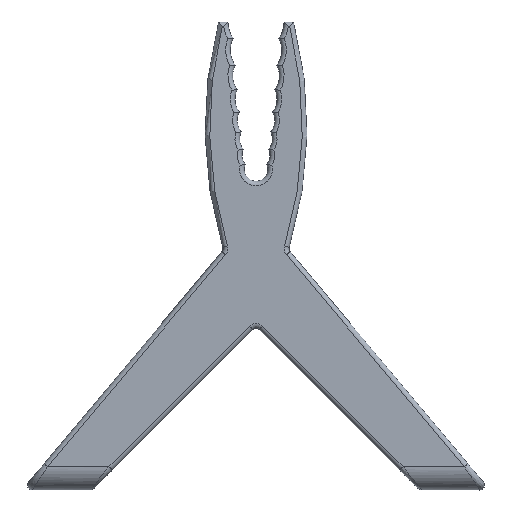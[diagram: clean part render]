
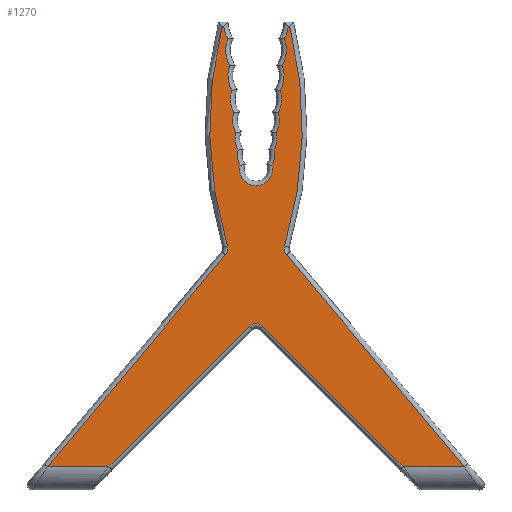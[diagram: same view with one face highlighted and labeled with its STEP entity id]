
A CAD part, top view. The second image highlights one B-rep face of the part: STEP entity #1270.
In plain terms, the highlighted planar face has unit normal (0, 0, 1).
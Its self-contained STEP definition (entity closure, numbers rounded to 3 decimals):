
#15=PLANE('',#1461);
#67=CIRCLE('',#1371,87.436);
#69=CIRCLE('',#1374,2.);
#80=CIRCLE('',#1393,7.);
#82=CIRCLE('',#1396,6.5);
#84=CIRCLE('',#1399,6.);
#86=CIRCLE('',#1402,5.5);
#88=CIRCLE('',#1405,5.);
#90=CIRCLE('',#1408,4.5);
#92=CIRCLE('',#1411,4.);
#94=CIRCLE('',#1414,3.5);
#96=CIRCLE('',#1417,4.);
#98=CIRCLE('',#1420,4.5);
#100=CIRCLE('',#1423,5.);
#102=CIRCLE('',#1426,5.5);
#104=CIRCLE('',#1429,6.);
#106=CIRCLE('',#1432,6.5);
#108=CIRCLE('',#1435,7.);
#109=CIRCLE('',#1438,87.436);
#114=CIRCLE('',#1444,2.);
#123=CIRCLE('',#1462,2.);
#224=FACE_OUTER_BOUND('',#310,.T.);
#310=EDGE_LOOP('',(#991,#992,#993,#994,#995,#996,#997,#998,#999,#1000,#1001,
#1002,#1003,#1004,#1005,#1006,#1007,#1008,#1009,#1010,#1011,#1012,#1013,
#1014,#1015,#1016,#1017,#1018));
#387=LINE('',#2317,#439);
#392=LINE('',#2413,#444);
#394=LINE('',#2717,#446);
#396=LINE('',#2749,#448);
#399=LINE('',#2842,#451);
#401=LINE('',#2848,#453);
#402=LINE('',#2850,#454);
#403=LINE('',#2853,#455);
#439=VECTOR('',#1631,10.);
#444=VECTOR('',#1662,10.);
#446=VECTOR('',#1756,10.);
#448=VECTOR('',#1778,10.);
#451=VECTOR('',#1807,10.);
#453=VECTOR('',#1813,10.);
#454=VECTOR('',#1814,10.);
#455=VECTOR('',#1817,10.);
#525=VERTEX_POINT('',#2289);
#526=VERTEX_POINT('',#2291);
#528=VERTEX_POINT('',#2309);
#530=VERTEX_POINT('',#2315);
#538=VERTEX_POINT('',#2412);
#540=VERTEX_POINT('',#2431);
#542=VERTEX_POINT('',#2450);
#544=VERTEX_POINT('',#2469);
#546=VERTEX_POINT('',#2488);
#548=VERTEX_POINT('',#2507);
#550=VERTEX_POINT('',#2526);
#552=VERTEX_POINT('',#2545);
#554=VERTEX_POINT('',#2564);
#556=VERTEX_POINT('',#2583);
#558=VERTEX_POINT('',#2602);
#560=VERTEX_POINT('',#2621);
#562=VERTEX_POINT('',#2640);
#564=VERTEX_POINT('',#2659);
#566=VERTEX_POINT('',#2678);
#568=VERTEX_POINT('',#2697);
#570=VERTEX_POINT('',#2716);
#571=VERTEX_POINT('',#2733);
#573=VERTEX_POINT('',#2739);
#575=VERTEX_POINT('',#2745);
#583=VERTEX_POINT('',#2841);
#585=VERTEX_POINT('',#2847);
#586=VERTEX_POINT('',#2849);
#587=VERTEX_POINT('',#2851);
#653=EDGE_CURVE('',#525,#526,#67,.T.);
#656=EDGE_CURVE('',#528,#525,#69,.T.);
#659=EDGE_CURVE('',#530,#528,#387,.T.);
#673=EDGE_CURVE('',#526,#538,#392,.T.);
#676=EDGE_CURVE('',#538,#540,#80,.T.);
#679=EDGE_CURVE('',#540,#542,#82,.T.);
#682=EDGE_CURVE('',#542,#544,#84,.T.);
#685=EDGE_CURVE('',#544,#546,#86,.T.);
#688=EDGE_CURVE('',#546,#548,#88,.T.);
#691=EDGE_CURVE('',#548,#550,#90,.T.);
#694=EDGE_CURVE('',#550,#552,#92,.T.);
#697=EDGE_CURVE('',#552,#554,#94,.T.);
#700=EDGE_CURVE('',#554,#556,#96,.T.);
#703=EDGE_CURVE('',#556,#558,#98,.T.);
#706=EDGE_CURVE('',#558,#560,#100,.T.);
#709=EDGE_CURVE('',#560,#562,#102,.T.);
#712=EDGE_CURVE('',#562,#564,#104,.T.);
#715=EDGE_CURVE('',#564,#566,#106,.T.);
#718=EDGE_CURVE('',#566,#568,#108,.T.);
#721=EDGE_CURVE('',#568,#570,#394,.T.);
#723=EDGE_CURVE('',#570,#571,#109,.T.);
#728=EDGE_CURVE('',#571,#573,#114,.T.);
#731=EDGE_CURVE('',#573,#575,#396,.T.);
#743=EDGE_CURVE('',#575,#583,#399,.T.);
#746=EDGE_CURVE('',#585,#530,#401,.T.);
#747=EDGE_CURVE('',#586,#585,#402,.T.);
#748=EDGE_CURVE('',#587,#586,#123,.T.);
#749=EDGE_CURVE('',#583,#587,#403,.T.);
#991=ORIENTED_EDGE('',*,*,#731,.F.);
#992=ORIENTED_EDGE('',*,*,#728,.F.);
#993=ORIENTED_EDGE('',*,*,#723,.F.);
#994=ORIENTED_EDGE('',*,*,#721,.F.);
#995=ORIENTED_EDGE('',*,*,#718,.F.);
#996=ORIENTED_EDGE('',*,*,#715,.F.);
#997=ORIENTED_EDGE('',*,*,#712,.F.);
#998=ORIENTED_EDGE('',*,*,#709,.F.);
#999=ORIENTED_EDGE('',*,*,#706,.F.);
#1000=ORIENTED_EDGE('',*,*,#703,.F.);
#1001=ORIENTED_EDGE('',*,*,#700,.F.);
#1002=ORIENTED_EDGE('',*,*,#697,.F.);
#1003=ORIENTED_EDGE('',*,*,#694,.F.);
#1004=ORIENTED_EDGE('',*,*,#691,.F.);
#1005=ORIENTED_EDGE('',*,*,#688,.F.);
#1006=ORIENTED_EDGE('',*,*,#685,.F.);
#1007=ORIENTED_EDGE('',*,*,#682,.F.);
#1008=ORIENTED_EDGE('',*,*,#679,.F.);
#1009=ORIENTED_EDGE('',*,*,#676,.F.);
#1010=ORIENTED_EDGE('',*,*,#673,.F.);
#1011=ORIENTED_EDGE('',*,*,#653,.F.);
#1012=ORIENTED_EDGE('',*,*,#656,.F.);
#1013=ORIENTED_EDGE('',*,*,#659,.F.);
#1014=ORIENTED_EDGE('',*,*,#746,.F.);
#1015=ORIENTED_EDGE('',*,*,#747,.F.);
#1016=ORIENTED_EDGE('',*,*,#748,.F.);
#1017=ORIENTED_EDGE('',*,*,#749,.F.);
#1018=ORIENTED_EDGE('',*,*,#743,.F.);
#1270=ADVANCED_FACE('',(#224),#15,.T.);
#1371=AXIS2_PLACEMENT_3D('',#2292,#1617,#1618);
#1374=AXIS2_PLACEMENT_3D('',#2311,#1623,#1624);
#1393=AXIS2_PLACEMENT_3D('',#2432,#1667,#1668);
#1396=AXIS2_PLACEMENT_3D('',#2451,#1673,#1674);
#1399=AXIS2_PLACEMENT_3D('',#2470,#1679,#1680);
#1402=AXIS2_PLACEMENT_3D('',#2489,#1685,#1686);
#1405=AXIS2_PLACEMENT_3D('',#2508,#1691,#1692);
#1408=AXIS2_PLACEMENT_3D('',#2527,#1697,#1698);
#1411=AXIS2_PLACEMENT_3D('',#2546,#1703,#1704);
#1414=AXIS2_PLACEMENT_3D('',#2565,#1709,#1710);
#1417=AXIS2_PLACEMENT_3D('',#2584,#1715,#1716);
#1420=AXIS2_PLACEMENT_3D('',#2603,#1721,#1722);
#1423=AXIS2_PLACEMENT_3D('',#2622,#1727,#1728);
#1426=AXIS2_PLACEMENT_3D('',#2641,#1733,#1734);
#1429=AXIS2_PLACEMENT_3D('',#2660,#1739,#1740);
#1432=AXIS2_PLACEMENT_3D('',#2679,#1745,#1746);
#1435=AXIS2_PLACEMENT_3D('',#2698,#1751,#1752);
#1438=AXIS2_PLACEMENT_3D('',#2734,#1759,#1760);
#1444=AXIS2_PLACEMENT_3D('',#2743,#1771,#1772);
#1461=AXIS2_PLACEMENT_3D('',#2846,#1811,#1812);
#1462=AXIS2_PLACEMENT_3D('',#2852,#1815,#1816);
#1617=DIRECTION('center_axis',(0.,0.,-1.));
#1618=DIRECTION('ref_axis',(-1.,-0.019,0.));
#1623=DIRECTION('center_axis',(0.,0.,1.));
#1624=DIRECTION('ref_axis',(0.98,-0.2,0.));
#1631=DIRECTION('',(0.643,0.766,0.));
#1662=DIRECTION('',(1.,0.,0.));
#1667=DIRECTION('center_axis',(0.,0.,1.));
#1668=DIRECTION('ref_axis',(-0.953,-0.304,0.));
#1673=DIRECTION('center_axis',(0.,0.,1.));
#1674=DIRECTION('ref_axis',(-0.997,-0.075,0.));
#1679=DIRECTION('center_axis',(0.,0.,1.));
#1680=DIRECTION('ref_axis',(-0.997,-0.083,0.));
#1685=DIRECTION('center_axis',(0.,0.,1.));
#1686=DIRECTION('ref_axis',(-0.996,-0.091,0.));
#1691=DIRECTION('center_axis',(0.,0.,1.));
#1692=DIRECTION('ref_axis',(-0.995,-0.102,0.));
#1697=DIRECTION('center_axis',(0.,0.,1.));
#1698=DIRECTION('ref_axis',(-0.993,-0.116,0.));
#1703=DIRECTION('center_axis',(0.,0.,1.));
#1704=DIRECTION('ref_axis',(-0.991,-0.134,0.));
#1709=DIRECTION('center_axis',(0.,0.,1.));
#1710=DIRECTION('ref_axis',(0.,-1.,0.));
#1715=DIRECTION('center_axis',(0.,0.,1.));
#1716=DIRECTION('ref_axis',(0.991,-0.134,0.));
#1721=DIRECTION('center_axis',(0.,0.,1.));
#1722=DIRECTION('ref_axis',(0.993,-0.116,0.));
#1727=DIRECTION('center_axis',(0.,0.,1.));
#1728=DIRECTION('ref_axis',(0.995,-0.102,0.));
#1733=DIRECTION('center_axis',(0.,0.,1.));
#1734=DIRECTION('ref_axis',(0.996,-0.091,0.));
#1739=DIRECTION('center_axis',(0.,0.,1.));
#1740=DIRECTION('ref_axis',(0.997,-0.083,0.));
#1745=DIRECTION('center_axis',(0.,0.,1.));
#1746=DIRECTION('ref_axis',(0.997,-0.075,0.));
#1751=DIRECTION('center_axis',(0.,0.,1.));
#1752=DIRECTION('ref_axis',(0.953,-0.304,0.));
#1756=DIRECTION('',(1.,0.,0.));
#1759=DIRECTION('center_axis',(0.,0.,-1.));
#1760=DIRECTION('ref_axis',(1.,-0.019,0.));
#1771=DIRECTION('center_axis',(0.,0.,1.));
#1772=DIRECTION('ref_axis',(-0.98,-0.2,0.));
#1778=DIRECTION('',(0.643,-0.766,0.));
#1807=DIRECTION('',(-1.,0.,0.));
#1811=DIRECTION('center_axis',(0.,0.,1.));
#1812=DIRECTION('ref_axis',(1.,0.,0.));
#1813=DIRECTION('',(-1.,0.,0.));
#1814=DIRECTION('',(-0.707,-0.707,0.));
#1815=DIRECTION('center_axis',(0.,0.,1.));
#1816=DIRECTION('ref_axis',(0.,1.,0.));
#1817=DIRECTION('',(-0.707,0.707,0.));
#2289=CARTESIAN_POINT('',(43.869,52.137,10.));
#2291=CARTESIAN_POINT('',(42.775,99.,10.));
#2292=CARTESIAN_POINT('Origin',(127.535,77.535,10.));
#2309=CARTESIAN_POINT('',(43.487,50.271,10.));
#2311=CARTESIAN_POINT('Origin',(41.955,51.556,10.));
#2315=CARTESIAN_POINT('',(5.501,5.,10.));
#2317=CARTESIAN_POINT('',(44.941,52.003,10.));
#2412=CARTESIAN_POINT('',(43.072,99.,10.));
#2413=CARTESIAN_POINT('',(47.,99.,10.));
#2431=CARTESIAN_POINT('',(43.974,96.438,10.));
#2432=CARTESIAN_POINT('Origin',(50.,100.,10.));
#2450=CARTESIAN_POINT('',(44.411,90.682,10.));
#2451=CARTESIAN_POINT('Origin',(50.,94.,10.));
#2469=CARTESIAN_POINT('',(44.848,85.425,10.));
#2470=CARTESIAN_POINT('Origin',(50.,88.5,10.));
#2488=CARTESIAN_POINT('',(45.286,80.667,10.));
#2489=CARTESIAN_POINT('Origin',(50.,83.5,10.));
#2507=CARTESIAN_POINT('',(45.725,76.406,10.));
#2508=CARTESIAN_POINT('Origin',(50.,79.,10.));
#2526=CARTESIAN_POINT('',(46.167,72.643,10.));
#2527=CARTESIAN_POINT('Origin',(50.,75.,10.));
#2545=CARTESIAN_POINT('',(46.611,69.375,10.));
#2546=CARTESIAN_POINT('Origin',(50.,71.5,10.));
#2564=CARTESIAN_POINT('',(53.389,69.375,10.));
#2565=CARTESIAN_POINT('Origin',(50.,68.5,10.));
#2583=CARTESIAN_POINT('',(53.833,72.643,10.));
#2584=CARTESIAN_POINT('Origin',(50.,71.5,10.));
#2602=CARTESIAN_POINT('',(54.275,76.406,10.));
#2603=CARTESIAN_POINT('Origin',(50.,75.,10.));
#2621=CARTESIAN_POINT('',(54.714,80.667,10.));
#2622=CARTESIAN_POINT('Origin',(50.,79.,10.));
#2640=CARTESIAN_POINT('',(55.152,85.425,10.));
#2641=CARTESIAN_POINT('Origin',(50.,83.5,10.));
#2659=CARTESIAN_POINT('',(55.589,90.682,10.));
#2660=CARTESIAN_POINT('Origin',(50.,88.5,10.));
#2678=CARTESIAN_POINT('',(56.026,96.438,10.));
#2679=CARTESIAN_POINT('Origin',(50.,94.,10.));
#2697=CARTESIAN_POINT('',(56.928,99.,10.));
#2698=CARTESIAN_POINT('Origin',(50.,100.,10.));
#2716=CARTESIAN_POINT('',(57.225,99.,10.));
#2717=CARTESIAN_POINT('',(54.,99.,10.));
#2733=CARTESIAN_POINT('',(56.131,52.137,10.));
#2734=CARTESIAN_POINT('Origin',(-27.535,77.535,10.));
#2739=CARTESIAN_POINT('',(56.513,50.271,10.));
#2743=CARTESIAN_POINT('Origin',(58.045,51.556,10.));
#2745=CARTESIAN_POINT('',(94.499,5.,10.));
#2749=CARTESIAN_POINT('',(76.594,26.338,10.));
#2841=CARTESIAN_POINT('',(81.414,5.,10.));
#2842=CARTESIAN_POINT('',(67.5,5.,10.));
#2846=CARTESIAN_POINT('Origin',(50.,50.,10.));
#2847=CARTESIAN_POINT('',(18.586,5.,10.));
#2848=CARTESIAN_POINT('',(25.,5.,10.));
#2849=CARTESIAN_POINT('',(48.586,35.,10.));
#2850=CARTESIAN_POINT('',(35.543,21.957,10.));
#2851=CARTESIAN_POINT('',(51.414,35.,10.));
#2852=CARTESIAN_POINT('Origin',(50.,33.586,10.));
#2853=CARTESIAN_POINT('',(46.957,39.457,10.));
